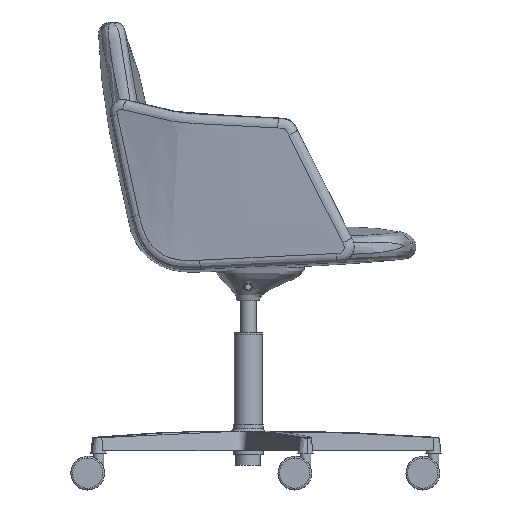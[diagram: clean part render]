
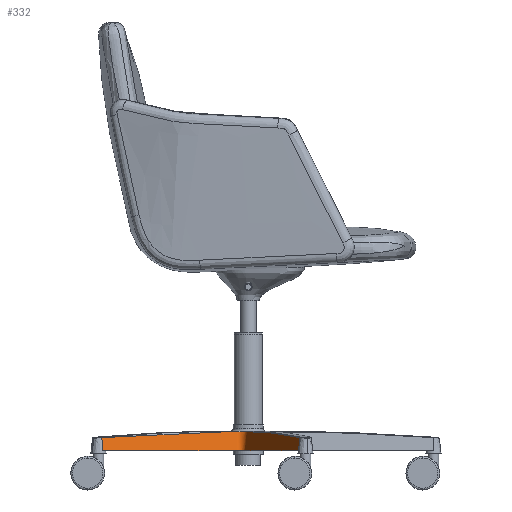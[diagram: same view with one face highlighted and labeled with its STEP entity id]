
A CAD part, left-side view. The second image highlights one B-rep face of the part: STEP entity #332.
In plain terms, the highlighted free-form (B-spline) face has degree [1, 2] with [2, 9] control points.
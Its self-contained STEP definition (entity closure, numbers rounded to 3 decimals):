
#332=ADVANCED_FACE('',(#559),#3222,.T.);
#559=FACE_OUTER_BOUND('',#786,.T.);
#786=EDGE_LOOP('',(#1282,#1283,#1284,#1285));
#1282=ORIENTED_EDGE('',*,*,#2033,.T.);
#1283=ORIENTED_EDGE('',*,*,#2003,.T.);
#1284=ORIENTED_EDGE('',*,*,#2004,.T.);
#1285=ORIENTED_EDGE('',*,*,#2039,.F.);
#2003=EDGE_CURVE('',#2954,#2955,#2767,.T.);
#2004=EDGE_CURVE('',#2955,#2986,#2768,.T.);
#2033=EDGE_CURVE('',#2985,#2954,#2797,.T.);
#2039=EDGE_CURVE('',#2985,#2986,#2326,.T.);
#2326=B_SPLINE_CURVE_WITH_KNOTS('',3,(#7917,#7918,#7919,#7920,#7921,#7922,
#7923,#7924,#7925,#7926,#7927,#7928,#7929,#7930,#7931,#7932,#7933,#7934,
#7935,#7936,#7937,#7938),.UNSPECIFIED.,.F.,.F.,(4,3,1,3,1,1,1,3,1,1,3,4),
(-0.072,-0.071,181.604,291.478,
298.304,305.233,312.161,318.988,396.785,
504.749,610.537,610.537),.UNSPECIFIED.);
#2767=(
BOUNDED_CURVE()
B_SPLINE_CURVE(2,(#7768,#7769,#7770,#7771,#7772,#7773,#7774,#7775,#7776),
 .UNSPECIFIED.,.F.,.F.)
B_SPLINE_CURVE_WITH_KNOTS((3,2,2,2,3),(0.,291.287,304.227,
317.167,608.455),.UNSPECIFIED.)
CURVE()
GEOMETRIC_REPRESENTATION_ITEM()
RATIONAL_B_SPLINE_CURVE((1.,1.,1.,0.895,1.,0.895,
1.,1.,1.))
REPRESENTATION_ITEM('')
);
#2768=(
BOUNDED_CURVE()
B_SPLINE_CURVE(1,(#7777,#7778),.UNSPECIFIED.,.F.,.F.)
B_SPLINE_CURVE_WITH_KNOTS((2,2),(-35.284,-11.76),
 .UNSPECIFIED.)
CURVE()
GEOMETRIC_REPRESENTATION_ITEM()
RATIONAL_B_SPLINE_CURVE((1.,1.))
REPRESENTATION_ITEM('')
);
#2797=(
BOUNDED_CURVE()
B_SPLINE_CURVE(1,(#7888,#7889),.UNSPECIFIED.,.F.,.F.)
B_SPLINE_CURVE_WITH_KNOTS((2,2),(11.76,35.284),
 .UNSPECIFIED.)
CURVE()
GEOMETRIC_REPRESENTATION_ITEM()
RATIONAL_B_SPLINE_CURVE((1.,1.))
REPRESENTATION_ITEM('')
);
#2954=VERTEX_POINT('',#7707);
#2955=VERTEX_POINT('',#7708);
#2985=VERTEX_POINT('',#7738);
#2986=VERTEX_POINT('',#7739);
#3222=(
BOUNDED_SURFACE()
B_SPLINE_SURFACE(1,2,((#7027,#7028,#7029,#7030,#7031,#7032,#7033,#7034,
#7035),(#7036,#7037,#7038,#7039,#7040,#7041,#7042,#7043,#7044)),
 .UNSPECIFIED.,.F.,.F.,.F.)
B_SPLINE_SURFACE_WITH_KNOTS((2,2),(3,2,2,2,3),(0.,35.284),(0.,
291.287,304.227,317.167,608.455),
 .UNSPECIFIED.)
GEOMETRIC_REPRESENTATION_ITEM()
RATIONAL_B_SPLINE_SURFACE(((1.,1.,1.,0.895,1.,0.895,
1.,1.,1.),(1.,1.,1.,0.895,1.,0.895,1.,1.,1.)))
REPRESENTATION_ITEM('')
SURFACE()
);
#7027=CARTESIAN_POINT('',(-201.208,261.626,105.));
#7028=CARTESIAN_POINT('',(-117.757,142.261,105.));
#7029=CARTESIAN_POINT('',(-34.306,22.897,105.));
#7030=CARTESIAN_POINT('',(-30.31,17.181,105.));
#7031=CARTESIAN_POINT('',(-32.465,10.549,105.));
#7032=CARTESIAN_POINT('',(-34.62,3.916,105.));
#7033=CARTESIAN_POINT('',(-41.212,1.641,105.));
#7034=CARTESIAN_POINT('',(-178.887,-45.876,105.));
#7035=CARTESIAN_POINT('',(-316.561,-93.393,105.));
#7036=CARTESIAN_POINT('',(-204.486,259.334,70.));
#7037=CARTESIAN_POINT('',(-121.035,139.97,70.));
#7038=CARTESIAN_POINT('',(-37.584,20.605,70.));
#7039=CARTESIAN_POINT('',(-34.73,16.522,70.));
#7040=CARTESIAN_POINT('',(-36.269,11.785,70.));
#7041=CARTESIAN_POINT('',(-37.809,7.047,70.));
#7042=CARTESIAN_POINT('',(-42.517,5.422,70.));
#7043=CARTESIAN_POINT('',(-180.192,-42.095,70.));
#7044=CARTESIAN_POINT('',(-317.866,-89.612,70.));
#7707=CARTESIAN_POINT('',(-204.486,259.334,70.));
#7708=CARTESIAN_POINT('',(-317.866,-89.612,70.));
#7738=CARTESIAN_POINT('',(-202.301,260.862,93.334));
#7739=CARTESIAN_POINT('',(-316.996,-92.133,93.334));
#7768=CARTESIAN_POINT('',(-204.486,259.334,70.));
#7769=CARTESIAN_POINT('',(-121.035,139.97,70.));
#7770=CARTESIAN_POINT('',(-37.584,20.605,70.));
#7771=CARTESIAN_POINT('',(-34.73,16.522,70.));
#7772=CARTESIAN_POINT('',(-36.269,11.785,70.));
#7773=CARTESIAN_POINT('',(-37.809,7.047,70.));
#7774=CARTESIAN_POINT('',(-42.517,5.422,70.));
#7775=CARTESIAN_POINT('',(-180.192,-42.095,70.));
#7776=CARTESIAN_POINT('',(-317.866,-89.612,70.));
#7777=CARTESIAN_POINT('',(-317.866,-89.612,70.));
#7778=CARTESIAN_POINT('',(-316.996,-92.133,93.334));
#7888=CARTESIAN_POINT('',(-202.301,260.862,93.334));
#7889=CARTESIAN_POINT('',(-204.486,259.334,70.));
#7917=CARTESIAN_POINT('',(-202.301,260.862,93.334));
#7918=CARTESIAN_POINT('',(-202.301,260.862,93.334));
#7919=CARTESIAN_POINT('',(-202.301,260.862,93.334));
#7920=CARTESIAN_POINT('',(-202.301,260.862,93.334));
#7921=CARTESIAN_POINT('',(-167.261,211.696,98.113));
#7922=CARTESIAN_POINT('',(-111.215,132.382,102.384));
#7923=CARTESIAN_POINT('',(-55.405,52.834,103.787));
#7924=CARTESIAN_POINT('',(-34.4,22.83,103.99));
#7925=CARTESIAN_POINT('',(-33.181,21.092,104.003));
#7926=CARTESIAN_POINT('',(-31.548,17.014,104.025));
#7927=CARTESIAN_POINT('',(-32.082,10.424,104.037));
#7928=CARTESIAN_POINT('',(-35.523,4.779,104.025));
#7929=CARTESIAN_POINT('',(-39.242,2.439,104.003));
#7930=CARTESIAN_POINT('',(-41.25,1.75,103.99));
#7931=CARTESIAN_POINT('',(-65.769,-6.695,103.843));
#7932=CARTESIAN_POINT('',(-124.325,-26.817,103.113));
#7933=CARTESIAN_POINT('',(-216.263,-58.203,100.26));
#7934=CARTESIAN_POINT('',(-283.664,-80.967,96.135));
#7935=CARTESIAN_POINT('',(-316.996,-92.133,93.334));
#7936=CARTESIAN_POINT('',(-316.996,-92.133,93.334));
#7937=CARTESIAN_POINT('',(-316.996,-92.133,93.334));
#7938=CARTESIAN_POINT('',(-316.996,-92.133,93.334));
